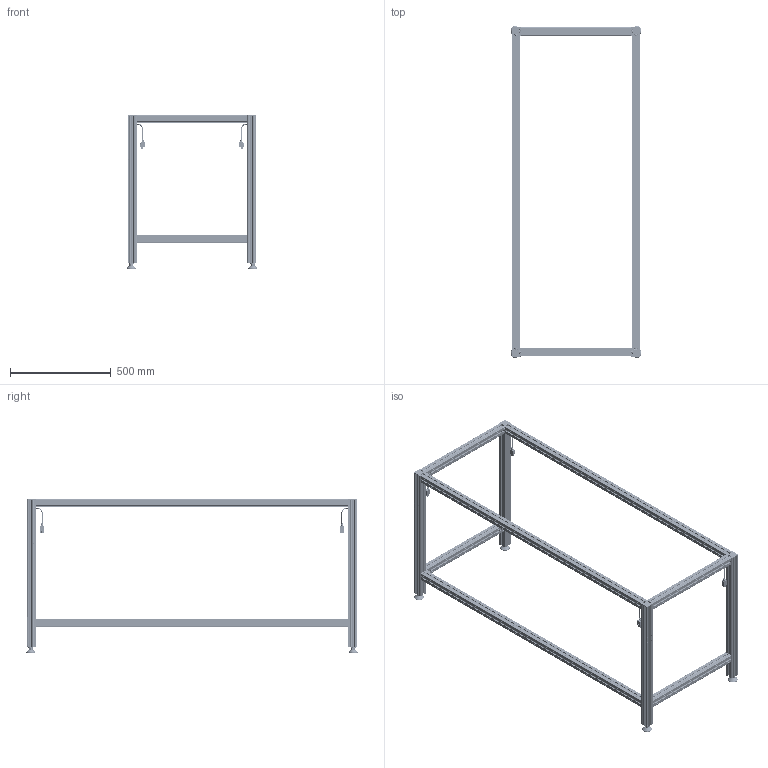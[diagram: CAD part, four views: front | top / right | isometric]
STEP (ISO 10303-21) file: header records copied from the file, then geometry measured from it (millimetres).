
FILE_DESCRIPTION(/* description */ ('Unknown'),/* implementation_level */ '2;1');
FILE_NAME(/* name */ 'Untergestell SQ.3 4340 1595 XX XX_00-Eingefahren',/* time_stamp */ '2022-02-04T13:21:51+01:00',/* author */ ('Unknown'),/* organization */ ('Unknown'),/* preprocessor_version */ 'ST-DEVELOPER v18.1',/* originating_system */ 'Solid Edge',/* authorisation */ 'Unknown');
FILE_SCHEMA (('AUTOMOTIVE_DESIGN {1 0 10303 214 3 1 1}'));
Products named in the file (21): Untergestell SQ.3 4340 1595 XX XX; 907.02004_oa_0; 142.00014; 119.00501; 122.00005; 142.00020; 123.00111; 125.00051; 128.00040; Kabel Molex; 907.02004_oa_1; 115.00100; 119.00190; 142.00210; 113.00006; 113.00006-ohne Mutter; Mutter M10; 907.02004_oa_2; 907.02004_oa_3; 115.00104; 119.00194
Assembly tree (79 placements, depth 3):
  Untergestell SQ.3 4340 1595 XX XX
    907.02004_oa_0
      142.00014  x4
      119.00501
      122.00005
      142.00020  x4
      123.00111
      125.00051
      128.00040
      Kabel Molex
    907.02004_oa_1
      142.00014  x4
      119.00501
      122.00005
      142.00020  x4
      123.00111
      125.00051
      128.00040
      Kabel Molex
    115.00100  x4
      119.00190
      142.00210
    113.00006  x4
      113.00006-ohne Mutter
      Mutter M10
    907.02004_oa_2
      142.00014  x4
      119.00501
      122.00005
      142.00020  x4
      123.00111
      125.00051
      128.00040
      Kabel Molex
    907.02004_oa_3
      142.00014  x4
      119.00501
      122.00005
      142.00020  x4
      123.00111
      125.00051
      128.00040
      Kabel Molex
    115.00104  x3
      119.00194
      142.00210
Bounding box: 651 x 1651 x 763 mm (x, y, z)
Volume: 7661849.3 mm3; surface area: 5452616.5 mm2
Topology: 99 solids, 99 shells, 13892 faces, 39146 edges, 25572 vertices
Faces by surface type: plane 7616, cylinder 4786, bspline 700, cone 310, torus 306, sphere 174
Full cylindrical faces by diameter (mm): 2.5 x52, 3 x16, 4 x48, 5 x40, 6.647 x4, 7.8 x14, 8.376 x12, 9.5 x4, 10 x4, 11.3 x14, 11.5 x14, 12 x14, 12.2 x14, 13.5 x14, 15 x4, 17.3 x4, 18 x28, 18.1 x14, 19 x8, 20.8 x12, 21 x8, 25 x12, 29 x4, 30 x8, 35 x4, 39 x4, 47 x4
Entity records: 120083 total; most frequent: CARTESIAN_POINT 27187, ORIENTED_EDGE 19200, DIRECTION 17815, EDGE_CURVE 9600, VERTEX_POINT 6349, AXIS2_PLACEMENT_3D 5949, LINE 5917, VECTOR 5917
